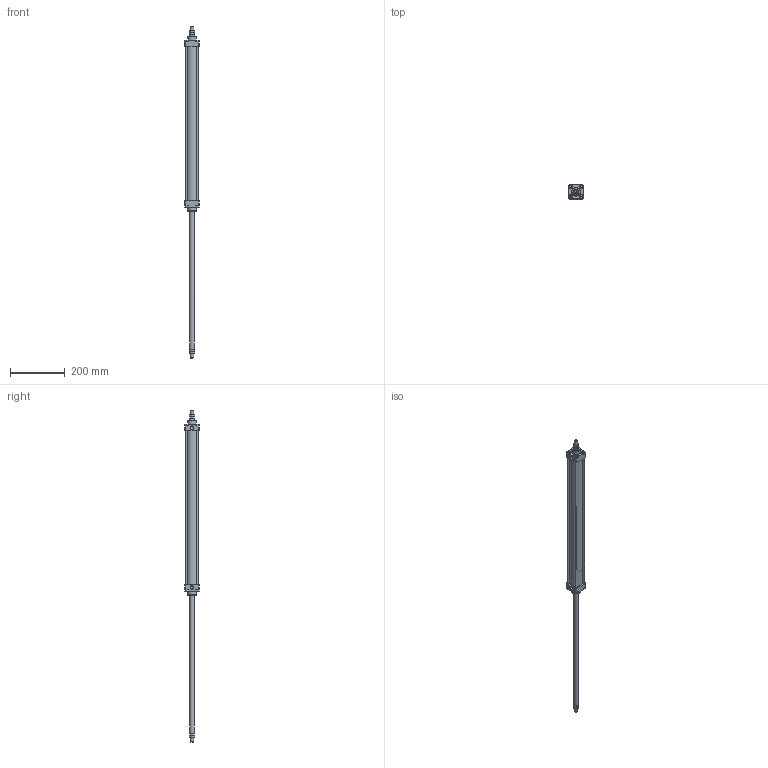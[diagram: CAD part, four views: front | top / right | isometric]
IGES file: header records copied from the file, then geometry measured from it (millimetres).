
Global section: file name: 130#_040_0500_02A; native system: Autodesk Inventor 2014; preprocessor: unknown; author: A. Manieri; date: 20161123.143812; units: millimetre
Bounding box: 52 x 52 x 1214 mm (x, y, z)
Volume: 735652.7 mm3; surface area: 303003.7 mm2
Topology: 10 solids, 10 shells, 187 faces, 467 edges, 314 vertices
Faces by surface type: bspline 187
